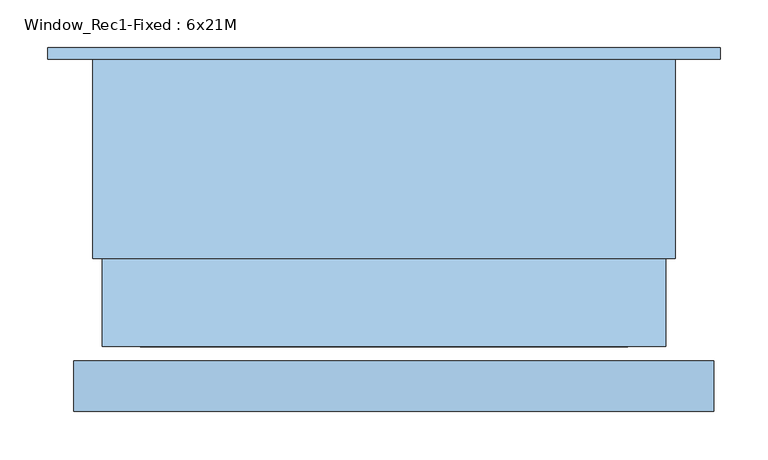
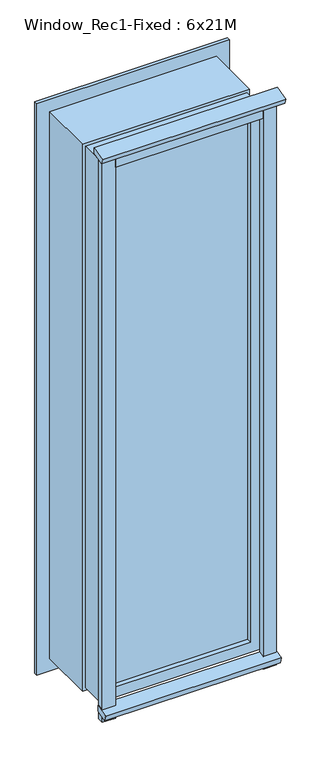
"""IFC4 building model written with IfcOpenShell, lengths in millimetres: window geometry, Window_Rec1-Fixed : 6x21M."""

from ifc_helpers import new_model, si_unit, frame, origin, place, context, project, spatial, polyline, outline, extrude, source, transform, mapped, element, save


def window_rec1_fixed_6x21m_3877b751(model_context):
    return source(origin(), model_context, "Body", "SweptSolid", [
        extrude(outline(polyline([(-220.0508419, 2444.3065207), (-166.8369888, 2458.5651297), (-166.8369888, 2438.8948822), (-215.1332801, 2425.95393), (-220.0508419, 2444.3065207)])), frame((-530.0, 0.0, 0.0), z_axis=(1.0, 0.0, 0.0), x_axis=(0.0, 1.0, 0.0)), (0.0, 0.0, 1.0), 670.0),
        extrude(outline(polyline([(-215.1332801, 290.6791642), (-166.8369888, 303.6201165), (-166.8369888, 280.8440405), (-209.4392611, 269.4287961), (-215.1332801, 290.6791642)])), frame((-516.0, 0.0, 0.0), z_axis=(1.0, 0.0, 0.0), x_axis=(0.0, 1.0, 0.0)), (0.0, 0.0, 1.0), 642.0),
        extrude(outline(polyline([(-465.0, -166.8369888), (75.0, -166.8369888), (75.0, -188.8369888), (-465.0, -188.8369888), (-465.0, -166.8369888)])), frame((0.0, 0.0, 255.0051732), z_axis=(0.0, 0.0, 1.0), x_axis=(1.0, 0.0, 0.0)), (0.0, 0.0, 1.0), 20.0),
        extrude(outline(polyline([(-465.0, -166.8369888), (75.0, -166.8369888), (75.0, -188.8369888), (-465.0, -188.8369888), (-465.0, -166.8369888)])), frame((0.0, 0.0, 2375.0), z_axis=(0.0, 0.0, 1.0), x_axis=(1.0, 0.0, 0.0)), (0.0, 0.0, 1.0), 60.0),
        extrude(outline(polyline([(123.0, -166.8369888), (123.0, -188.8369888), (75.0, -188.8369888), (75.0, -166.8369888), (123.0, -166.8369888)])), frame((0.0, 0.0, 250.0), z_axis=(0.0, 0.0, 1.0), x_axis=(1.0, 0.0, 0.0)), (0.0, 0.0, 1.0), 2189.0),
        extrude(outline(polyline([(-465.0, -166.8369888), (-465.0, -188.8369888), (-513.0, -188.8369888), (-513.0, -166.8369888), (-465.0, -166.8369888)])), frame((0.0, 0.0, 250.0), z_axis=(0.0, 0.0, 1.0), x_axis=(1.0, 0.0, 0.0)), (0.0, 0.0, 1.0), 2189.1537013),
        extrude(outline(polyline([(300.0, 90.0), (2390.0, 90.0), (2390.0, -500.0), (300.0, -500.0), (300.0, 90.0)]), holes=[polyline([(2350.0, 50.0), (340.0, 50.0), (340.0, -460.0), (2350.0, -460.0), (2350.0, 50.0)])]), frame((0.0, -151.8369888, 0.0), z_axis=(0.0, 1.0, 0.0), x_axis=(0.0, 0.0, 1.0)), (0.0, 0.0, 1.0), 92.0),
        extrude(outline(polyline([(50.0, -109.3369888), (50.0, -134.3369888), (-460.0, -134.3369888), (-460.0, -109.3369888), (50.0, -109.3369888)])), frame((0.0, 0.0, 340.0), z_axis=(0.0, 0.0, 1.0), x_axis=(1.0, 0.0, 0.0)), (0.0, 0.0, 1.0), 2010.0),
        extrude(outline(polyline([(2400.0, 100.0), (2400.0, -510.0), (290.0, -510.0), (290.0, 100.0), (2400.0, 100.0)]), holes=[polyline([(300.0, -500.0), (2390.0, -500.0), (2390.0, 90.0), (300.0, 90.0), (300.0, -500.0)])]), frame((0.0, -59.8369888, 0.0), z_axis=(0.0, 1.0, 0.0), x_axis=(0.0, 0.0, 1.0)), (0.0, 0.0, 1.0), 209.0),
        extrude(outline(polyline([(243.0, 147.0), (2447.0, 147.0), (2447.0, -557.0), (243.0, -557.0), (243.0, 147.0)]), holes=[polyline([(2395.0, 95.0), (295.0, 95.0), (295.0, -505.0), (2395.0, -505.0), (2395.0, 95.0)])]), frame((0.0, 149.1630112, 0.0), z_axis=(0.0, 1.0, 0.0), x_axis=(0.0, 0.0, 1.0)), (0.0, 0.0, 1.0), 12.0),
    ])


if __name__ == "__main__":
    model = new_model("IFC4")
    model_context = context("Model", 3, world=origin())
    ifc_project = project(units=[si_unit("LENGTHUNIT", "METRE", prefix="MILLI")], contexts=[model_context])
    site = spatial("IfcSite", under=ifc_project)
    building = spatial("IfcBuilding", under=site)
    placement = place(None, origin())
    window_rec1_fixed_6x21m_shape = window_rec1_fixed_6x21m_3877b751(model_context)
    element("IfcWindow", 1, ObjectType="Window_Rec1-Fixed : 6x21M", at=placement, inside=building, context=model_context, shape_type="MappedRepresentation", body=[
        mapped(window_rec1_fixed_6x21m_shape, transform((0.0, 0.0, 0.0), x_axis=(1.0, 0.0, 0.0), y_axis=(0.0, 1.0, 0.0), z_axis=(0.0, 0.0, 1.0))),
    ])
    save(model, "model.ifc")
